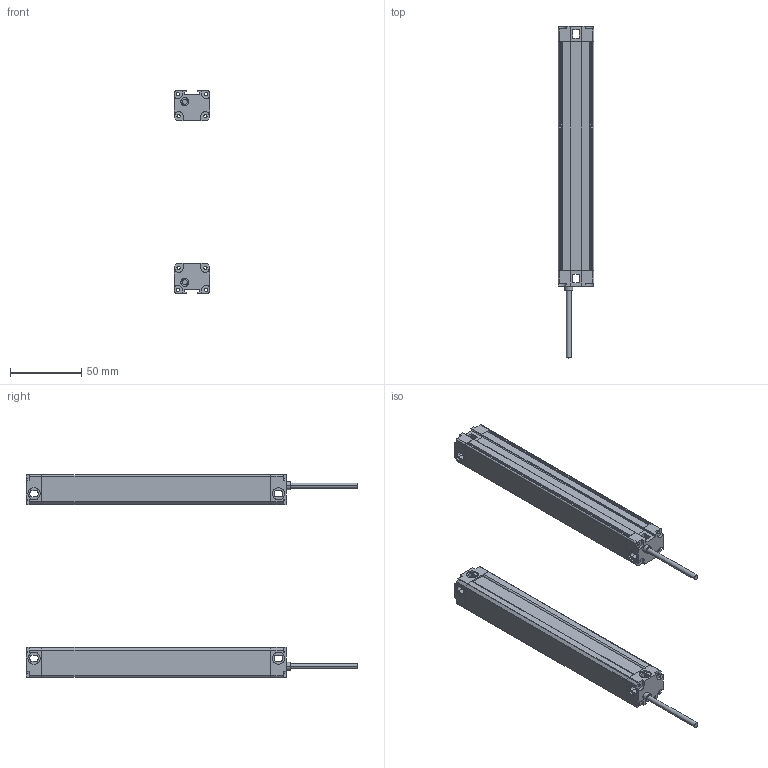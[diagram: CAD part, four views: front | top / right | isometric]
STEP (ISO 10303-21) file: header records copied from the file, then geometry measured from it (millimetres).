
FILE_DESCRIPTION (( 'STEP AP214' ), '1' );
FILE_NAME ('MTC0820.STEP', '2022-08-02T08:50:47', ( '' ), ( '' ), 'SwSTEP 2.0', 'SolidWorks 2018', '' );
FILE_SCHEMA (( 'AUTOMOTIVE_DESIGN' ));
Length unit declared in the file: millimetre
Products named in the file (5): MTC waike^MTC; 噩砃P02^MTC; P02^MTC; P01^MTC; MTC0820
Assembly tree (6 placements, depth 2):
  MTC0820
    MTC waike^MTC  x2
    P01^MTC  x2
    P02^MTC
    噩砃P02^MTC
Bounding box: 25 x 232 x 141.4 mm (x, y, z)
Volume: 68093.9 mm3; surface area: 85904.3 mm2
Topology: 8 solids, 8 shells, 480 faces, 1396 edges, 924 vertices
Faces by surface type: plane 272, cylinder 208
Entity records: 10886 total; most frequent: DIRECTION 1881, CARTESIAN_POINT 1878, ORIENTED_EDGE 1846, EDGE_CURVE 923, AXIS2_PLACEMENT_3D 637, VERTEX_POINT 610, LINE 607, VECTOR 607
